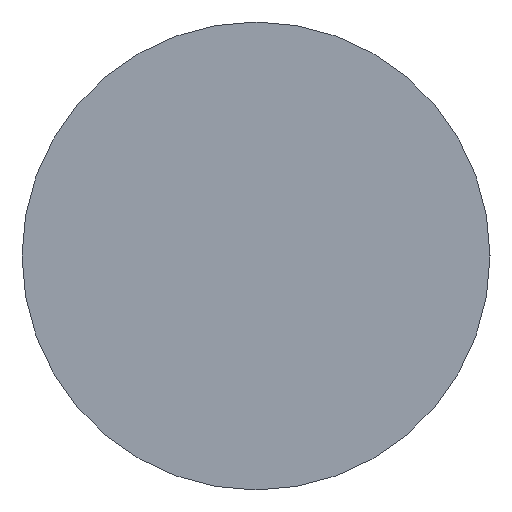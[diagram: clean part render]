
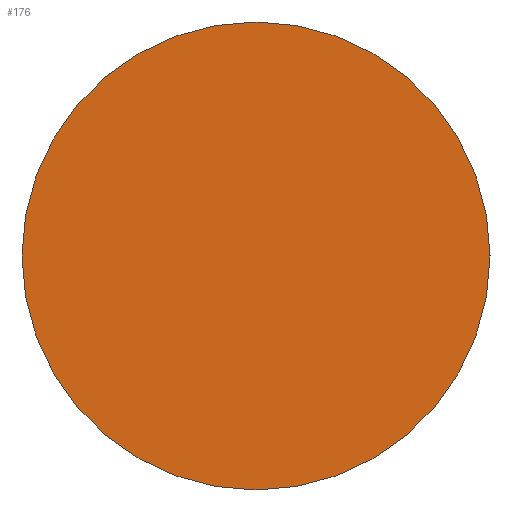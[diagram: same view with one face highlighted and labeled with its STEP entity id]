
A CAD part, left-side view. The second image highlights one B-rep face of the part: STEP entity #176.
In plain terms, the highlighted planar face has unit normal (-1, 0, 0).
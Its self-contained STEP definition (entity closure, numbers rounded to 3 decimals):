
#1 = CIRCLE ( 'NONE', #221, 6. ) ;
#4 = PLANE ( 'NONE',  #153 ) ;
#18 = FACE_OUTER_BOUND ( 'NONE', #224, .T. ) ;
#29 = CARTESIAN_POINT ( 'NONE',  ( 0., 0., 0. ) ) ;
#45 = AXIS2_PLACEMENT_3D ( 'NONE', #141, #237, #61 ) ;
#60 = DIRECTION ( 'NONE',  ( 0., -1., 0. ) ) ;
#61 = DIRECTION ( 'NONE',  ( 0., 1., 0. ) ) ;
#69 = EDGE_CURVE ( 'NONE', #205, #266, #1, .T. ) ;
#85 = ORIENTED_EDGE ( 'NONE', *, *, #139, .F. ) ;
#93 = ORIENTED_EDGE ( 'NONE', *, *, #69, .F. ) ;
#101 = DIRECTION ( 'NONE',  ( 1., 0., 0. ) ) ;
#115 = DIRECTION ( 'NONE',  ( -1., 0., 0. ) ) ;
#131 = DIRECTION ( 'NONE',  ( 0., 1., 0. ) ) ;
#139 = EDGE_CURVE ( 'NONE', #266, #205, #262, .T. ) ;
#141 = CARTESIAN_POINT ( 'NONE',  ( 0., 0., 0. ) ) ;
#153 = AXIS2_PLACEMENT_3D ( 'NONE', #29, #115, #60 ) ;
#176 = ADVANCED_FACE ( 'NONE', ( #18 ), #4, .T. ) ;
#197 = CARTESIAN_POINT ( 'NONE',  ( 0., 6., 0. ) ) ;
#205 = VERTEX_POINT ( 'NONE', #265 ) ;
#219 = CARTESIAN_POINT ( 'NONE',  ( 0., 0., 0. ) ) ;
#221 = AXIS2_PLACEMENT_3D ( 'NONE', #219, #101, #131 ) ;
#224 = EDGE_LOOP ( 'NONE', ( #85, #93 ) ) ;
#237 = DIRECTION ( 'NONE',  ( 1., 0., 0. ) ) ;
#262 = CIRCLE ( 'NONE', #45, 6. ) ;
#265 = CARTESIAN_POINT ( 'NONE',  ( 0., -6., 0. ) ) ;
#266 = VERTEX_POINT ( 'NONE', #197 ) ;
